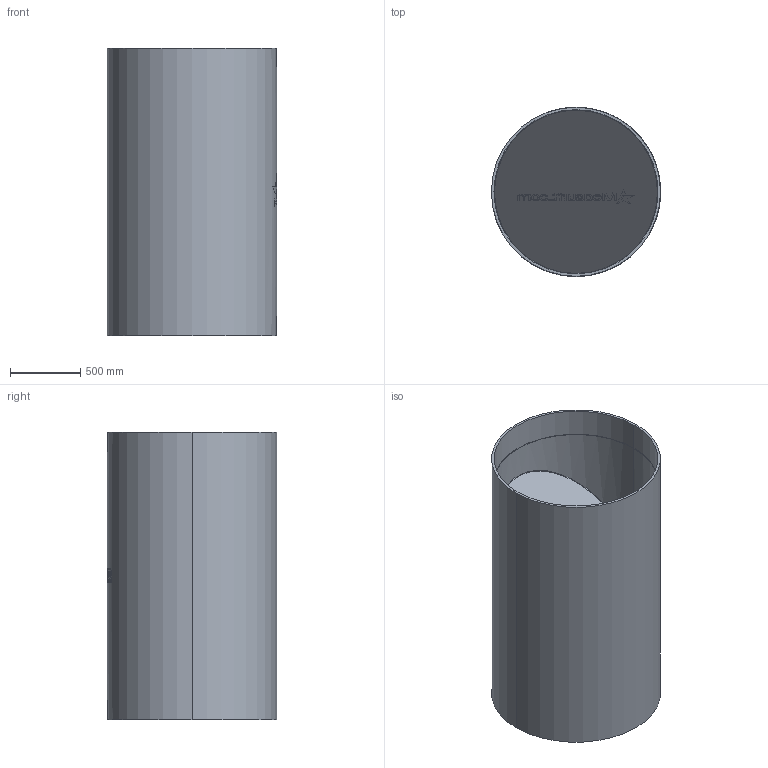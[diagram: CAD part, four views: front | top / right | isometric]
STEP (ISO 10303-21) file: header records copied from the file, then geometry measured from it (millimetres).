
FILE_DESCRIPTION (( 'STEP AP214' ), '1' );
FILE_NAME ('CF-IL-G5-S1200-NN-316-IDP.STEP', '2023-03-21T12:45:12', ( '' ), ( '' ), 'SwSTEP 2.0', 'SolidWorks 2022', '' );
FILE_SCHEMA (( 'AUTOMOTIVE_DESIGN' ));
Length unit declared in the file: millimetre
Products named in the file (3): CF-IL-G5-S1200-NN-316-IDP_CM-0100-B; CF-IL-G5-S1200-NN-316-IDP; Clamp- 1200_1200
Assembly tree (3 placements, depth 2):
  CF-IL-G5-S1200-NN-316-IDP
    CF-IL-G5-S1200-NN-316-IDP_CM-0100-B
    Clamp- 1200_1200  x2
Bounding box: 1200.49 x 1200.5 x 2040 mm (x, y, z)
Volume: 164728088.3 mm3; surface area: 19494161 mm2
Topology: 37 solids, 37 shells, 3164 faces, 8088 edges, 5035 vertices
Faces by surface type: plane 1015, cone 810, bspline 674, cylinder 665
Entity records: 98218 total; most frequent: CARTESIAN_POINT 31812, ORIENTED_EDGE 12372, DIRECTION 7401, EDGE_CURVE 6186, VERTEX_POINT 3956, B_SPLINE_CURVE_WITH_KNOTS 2709, VECTOR 2693, LINE 2693
